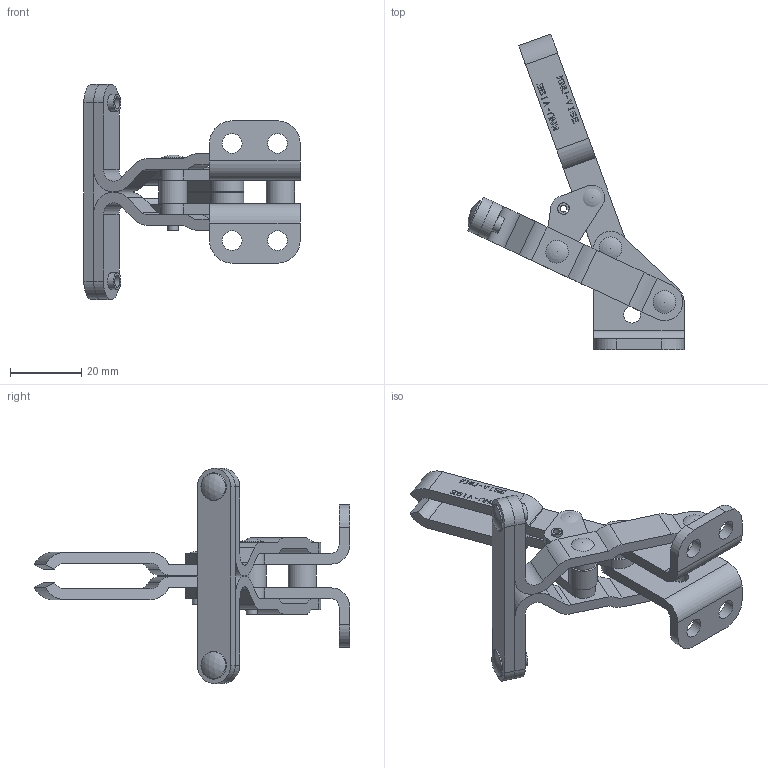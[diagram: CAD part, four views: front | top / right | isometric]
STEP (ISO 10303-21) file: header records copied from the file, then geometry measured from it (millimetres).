
FILE_DESCRIPTION(/* description */ (''),/* implementation_level */ '2;1');
FILE_NAME(/* name */ 'C:\Users\Nick\Desktop\t-220\3D\T-220 Open.stp',/* time_stamp */ '2015-09-01T17:08:04-04:00',/* author */ ('Nick'),/* organization */ (''),/* preprocessor_version */ 'ST-DEVELOPER v16.1',/* originating_system */ 'AutoCAD Mechanical',/* authorisation */ '');
FILE_SCHEMA (('AUTOMOTIVE_DESIGN { 1 0 10303 214 3 1 1 }'));
Length unit declared in the file: inch
Products named in the file (1): Product
Bounding box: 60.64 x 88.5 x 60.3 mm (x, y, z)
Volume: 18683.8 mm3; surface area: 18372.4 mm2
Topology: 18 solids, 18 shells, 606 faces, 1610 edges, 1074 vertices
Faces by surface type: plane 488, cylinder 90, bspline 10, sphere 6, torus 6, cone 6
Full cylindrical faces by diameter (mm): 2.362 x4, 3.124 x4, 3.226 x18, 3.3 x2, 3.353 x2, 4.724 x2, 4.775 x6, 5.537 x4, 7.95 x2
Entity records: 18365 total; most frequent: CARTESIAN_POINT 3381, ORIENTED_EDGE 3056, DIRECTION 2894, EDGE_CURVE 1528, LINE 1316, VECTOR 1316, VERTEX_POINT 1052, AXIS2_PLACEMENT_3D 789
